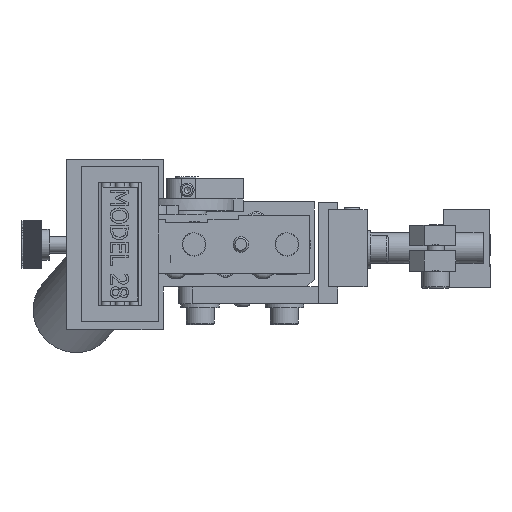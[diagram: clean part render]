
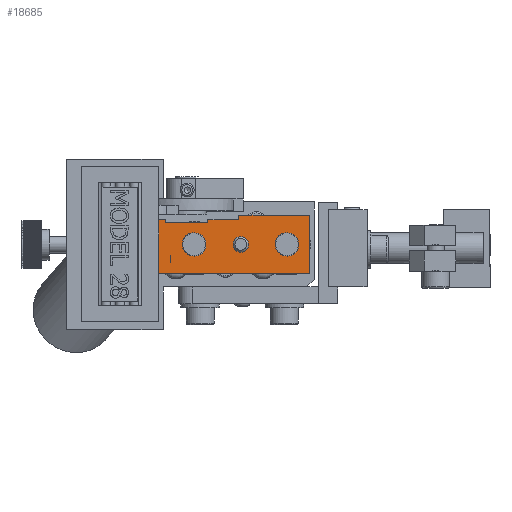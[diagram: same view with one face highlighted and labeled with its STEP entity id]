
A CAD part, front view. The second image highlights one B-rep face of the part: STEP entity #18685.
In plain terms, the highlighted planar face has unit normal (0, -1, 0).
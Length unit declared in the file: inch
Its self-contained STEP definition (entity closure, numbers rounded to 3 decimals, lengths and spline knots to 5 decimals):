
#15961=CARTESIAN_POINT('',(-0.80258,-3.91031,-0.143));
#15962=VERTEX_POINT('',#15961);
#15985=CARTESIAN_POINT('',(-0.80258,-3.91031,-0.579));
#15986=VERTEX_POINT('',#15985);
#15993=CARTESIAN_POINT('',(-0.80258,-3.91031,-0.143));
#15994=DIRECTION('',(0.0,0.0,-1.0));
#15995=VECTOR('',#15994,0.436);
#15996=LINE('',#15993,#15995);
#15997=EDGE_CURVE('',#15962,#15986,#15996,.T.);
#16103=CARTESIAN_POINT('',(-0.62483,-3.91031,-0.143));
#16104=VERTEX_POINT('',#16103);
#16105=CARTESIAN_POINT('',(-0.62483,-3.91031,-0.143));
#16106=DIRECTION('',(-1.0,0.0,0.0));
#16107=VECTOR('',#16106,0.17775);
#16108=LINE('',#16105,#16107);
#16109=EDGE_CURVE('',#16104,#15962,#16108,.T.);
#16134=CARTESIAN_POINT('',(-0.40242,-3.91031,-0.25));
#16135=VERTEX_POINT('',#16134);
#16136=CARTESIAN_POINT('',(-0.29682,-3.91031,-0.343));
#16137=VERTEX_POINT('',#16136);
#16138=CARTESIAN_POINT('',(-0.39057,-3.91031,-0.343));
#16139=DIRECTION('',(0.0,1.0,0.0));
#16140=DIRECTION('',(-1.0,0.0,0.0));
#16141=AXIS2_PLACEMENT_3D('',#16138,#16139,#16140);
#16142=CIRCLE('',#16141,0.09375);
#16143=EDGE_CURVE('',#16135,#16137,#16142,.T.);
#16145=CARTESIAN_POINT('',(-0.40242,-3.91031,-0.436));
#16146=VERTEX_POINT('',#16145);
#16154=CARTESIAN_POINT('',(-0.39057,-3.91031,-0.343));
#16155=DIRECTION('',(0.0,1.0,0.0));
#16156=DIRECTION('',(-1.0,0.0,0.0));
#16157=AXIS2_PLACEMENT_3D('',#16154,#16155,#16156);
#16158=CIRCLE('',#16157,0.09375);
#16159=EDGE_CURVE('',#16137,#16146,#16158,.T.);
#16179=CARTESIAN_POINT('',(0.54143,-3.91031,-0.579));
#16180=VERTEX_POINT('',#16179);
#16187=CARTESIAN_POINT('',(-0.80258,-3.91031,-0.579));
#16188=DIRECTION('',(1.0,0.0,0.0));
#16189=VECTOR('',#16188,1.34401);
#16190=LINE('',#16187,#16189);
#16191=EDGE_CURVE('',#15986,#16180,#16190,.T.);
#17905=CARTESIAN_POINT('',(-0.62483,-3.91031,-0.168));
#17906=VERTEX_POINT('',#17905);
#17913=CARTESIAN_POINT('',(-0.28183,-3.91031,-0.168));
#17914=VERTEX_POINT('',#17913);
#17915=CARTESIAN_POINT('',(-0.28183,-3.91031,-0.168));
#17916=DIRECTION('',(-1.0,0.0,0.0));
#17917=VECTOR('',#17916,0.343);
#17918=LINE('',#17915,#17917);
#17919=EDGE_CURVE('',#17914,#17906,#17918,.T.);
#17944=CARTESIAN_POINT('',(-0.28183,-3.91031,-0.14286));
#17945=VERTEX_POINT('',#17944);
#17946=CARTESIAN_POINT('',(-0.28183,-3.91031,-0.14286));
#17947=DIRECTION('',(0.0,0.0,-1.0));
#17948=VECTOR('',#17947,0.02514);
#17949=LINE('',#17946,#17948);
#17950=EDGE_CURVE('',#17945,#17914,#17949,.T.);
#17975=CARTESIAN_POINT('',(-0.03157,-3.91031,-0.14286));
#17976=VERTEX_POINT('',#17975);
#17977=CARTESIAN_POINT('',(-0.03157,-3.91031,-0.14286));
#17978=DIRECTION('',(-1.0,0.0,0.0));
#17979=VECTOR('',#17978,0.25026);
#17980=LINE('',#17977,#17979);
#17981=EDGE_CURVE('',#17976,#17945,#17980,.T.);
#18006=CARTESIAN_POINT('',(-0.03157,-3.91031,-0.106));
#18007=VERTEX_POINT('',#18006);
#18008=CARTESIAN_POINT('',(-0.03157,-3.91031,-0.106));
#18009=DIRECTION('',(0.0,0.0,-1.0));
#18010=VECTOR('',#18009,0.03686);
#18011=LINE('',#18008,#18010);
#18012=EDGE_CURVE('',#18007,#17976,#18011,.T.);
#18035=CARTESIAN_POINT('',(-0.62483,-3.91031,-0.168));
#18036=DIRECTION('',(0.0,0.0,1.0));
#18037=VECTOR('',#18036,0.025);
#18038=LINE('',#18035,#18037);
#18039=EDGE_CURVE('',#17906,#16104,#18038,.T.);
#18179=CARTESIAN_POINT('',(0.54143,-3.91031,-0.106));
#18180=VERTEX_POINT('',#18179);
#18181=CARTESIAN_POINT('',(0.54143,-3.91031,-0.106));
#18182=DIRECTION('',(-1.0,0.0,0.0));
#18183=VECTOR('',#18182,0.573);
#18184=LINE('',#18181,#18183);
#18185=EDGE_CURVE('',#18180,#18007,#18184,.T.);
#18525=CARTESIAN_POINT('',(0.54143,-3.91031,-0.579));
#18526=DIRECTION('',(0.0,0.0,1.0));
#18527=VECTOR('',#18526,0.473);
#18528=LINE('',#18525,#18527);
#18529=EDGE_CURVE('',#16180,#18180,#18528,.T.);
#18580=CARTESIAN_POINT('',(-0.48882,-3.91031,-0.343));
#18581=VERTEX_POINT('',#18580);
#18582=CARTESIAN_POINT('',(-0.39557,-3.91031,-0.343));
#18583=DIRECTION('',(0.0,1.0,0.0));
#18584=DIRECTION('',(-1.0,0.0,0.0));
#18585=AXIS2_PLACEMENT_3D('',#18582,#18583,#18584);
#18586=CIRCLE('',#18585,0.09325);
#18587=EDGE_CURVE('',#18581,#16135,#18586,.T.);
#18589=CARTESIAN_POINT('',(-0.39557,-3.91031,-0.343));
#18590=DIRECTION('',(0.0,1.0,0.0));
#18591=DIRECTION('',(-1.0,0.0,0.0));
#18592=AXIS2_PLACEMENT_3D('',#18589,#18590,#18591);
#18593=CIRCLE('',#18592,0.09325);
#18594=EDGE_CURVE('',#16146,#18581,#18593,.T.);
#18613=CARTESIAN_POINT('',(0.54143,-3.91031,-0.579));
#18614=DIRECTION('',(0.0,-1.0,0.0));
#18615=DIRECTION('',(0.0,0.0,-1.0));
#18616=AXIS2_PLACEMENT_3D('',#18613,#18614,#18615);
#18617=PLANE('',#18616);
#18618=ORIENTED_EDGE('',*,*,#15997,.T.);
#18619=ORIENTED_EDGE('',*,*,#16191,.T.);
#18620=ORIENTED_EDGE('',*,*,#18529,.T.);
#18621=ORIENTED_EDGE('',*,*,#18185,.T.);
#18622=ORIENTED_EDGE('',*,*,#18012,.T.);
#18623=ORIENTED_EDGE('',*,*,#17981,.T.);
#18624=ORIENTED_EDGE('',*,*,#17950,.T.);
#18625=ORIENTED_EDGE('',*,*,#17919,.T.);
#18626=ORIENTED_EDGE('',*,*,#18039,.T.);
#18627=ORIENTED_EDGE('',*,*,#16109,.T.);
#18628=EDGE_LOOP('',(#18618,#18619,#18620,#18621,#18622,#18623,#18624,#18625,#18626,#18627));
#18629=FACE_OUTER_BOUND('',#18628,.T.);
#18630=CARTESIAN_POINT('',(-0.01557,-3.91031,-0.2805));
#18631=VERTEX_POINT('',#18630);
#18632=CARTESIAN_POINT('',(-0.01557,-3.91031,-0.343));
#18633=DIRECTION('',(0.0,1.0,0.0));
#18634=DIRECTION('',(0.0,0.0,-1.0));
#18635=AXIS2_PLACEMENT_3D('',#18632,#18633,#18634);
#18636=CIRCLE('',#18635,0.0625);
#18637=EDGE_CURVE('',#18631,#18631,#18636,.T.);
#18638=ORIENTED_EDGE('',*,*,#18637,.T.);
#18639=EDGE_LOOP('',(#18638));
#18640=FACE_BOUND('',#18639,.T.);
#18641=CARTESIAN_POINT('',(0.45318,-3.91031,-0.343));
#18642=VERTEX_POINT('',#18641);
#18643=CARTESIAN_POINT('',(0.34758,-3.91031,-0.436));
#18644=VERTEX_POINT('',#18643);
#18645=CARTESIAN_POINT('',(0.35943,-3.91031,-0.343));
#18646=DIRECTION('',(0.0,1.0,0.0));
#18647=DIRECTION('',(-1.0,0.0,0.0));
#18648=AXIS2_PLACEMENT_3D('',#18645,#18646,#18647);
#18649=CIRCLE('',#18648,0.09375);
#18650=EDGE_CURVE('',#18642,#18644,#18649,.T.);
#18651=ORIENTED_EDGE('',*,*,#18650,.T.);
#18652=CARTESIAN_POINT('',(0.26118,-3.91031,-0.343));
#18653=VERTEX_POINT('',#18652);
#18654=CARTESIAN_POINT('',(0.35443,-3.91031,-0.343));
#18655=DIRECTION('',(0.0,1.0,0.0));
#18656=DIRECTION('',(-1.0,0.0,0.0));
#18657=AXIS2_PLACEMENT_3D('',#18654,#18655,#18656);
#18658=CIRCLE('',#18657,0.09325);
#18659=EDGE_CURVE('',#18644,#18653,#18658,.T.);
#18660=ORIENTED_EDGE('',*,*,#18659,.T.);
#18661=CARTESIAN_POINT('',(0.34758,-3.91031,-0.25));
#18662=VERTEX_POINT('',#18661);
#18663=CARTESIAN_POINT('',(0.35443,-3.91031,-0.343));
#18664=DIRECTION('',(0.0,1.0,0.0));
#18665=DIRECTION('',(-1.0,0.0,0.0));
#18666=AXIS2_PLACEMENT_3D('',#18663,#18664,#18665);
#18667=CIRCLE('',#18666,0.09325);
#18668=EDGE_CURVE('',#18653,#18662,#18667,.T.);
#18669=ORIENTED_EDGE('',*,*,#18668,.T.);
#18670=CARTESIAN_POINT('',(0.35943,-3.91031,-0.343));
#18671=DIRECTION('',(0.0,1.0,0.0));
#18672=DIRECTION('',(-1.0,0.0,0.0));
#18673=AXIS2_PLACEMENT_3D('',#18670,#18671,#18672);
#18674=CIRCLE('',#18673,0.09375);
#18675=EDGE_CURVE('',#18662,#18642,#18674,.T.);
#18676=ORIENTED_EDGE('',*,*,#18675,.T.);
#18677=EDGE_LOOP('',(#18651,#18660,#18669,#18676));
#18678=FACE_BOUND('',#18677,.T.);
#18679=ORIENTED_EDGE('',*,*,#16143,.T.);
#18680=ORIENTED_EDGE('',*,*,#16159,.T.);
#18681=ORIENTED_EDGE('',*,*,#18594,.T.);
#18682=ORIENTED_EDGE('',*,*,#18587,.T.);
#18683=EDGE_LOOP('',(#18679,#18680,#18681,#18682));
#18684=FACE_BOUND('',#18683,.T.);
#18685=ADVANCED_FACE('',(#18629,#18640,#18678,#18684),#18617,.T.);
